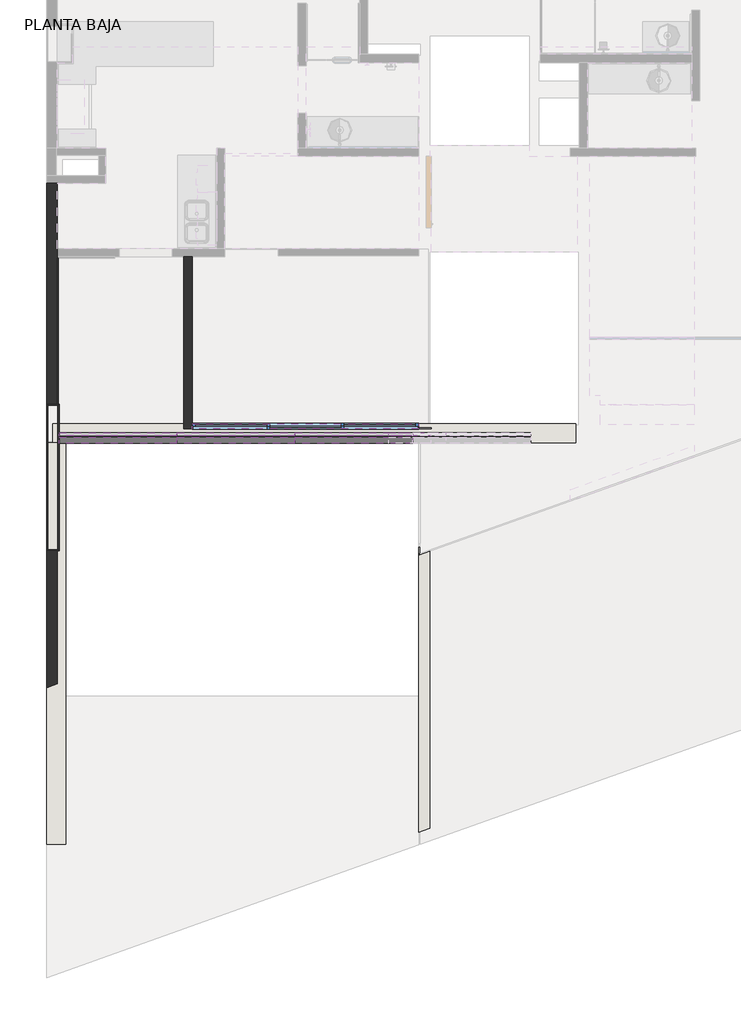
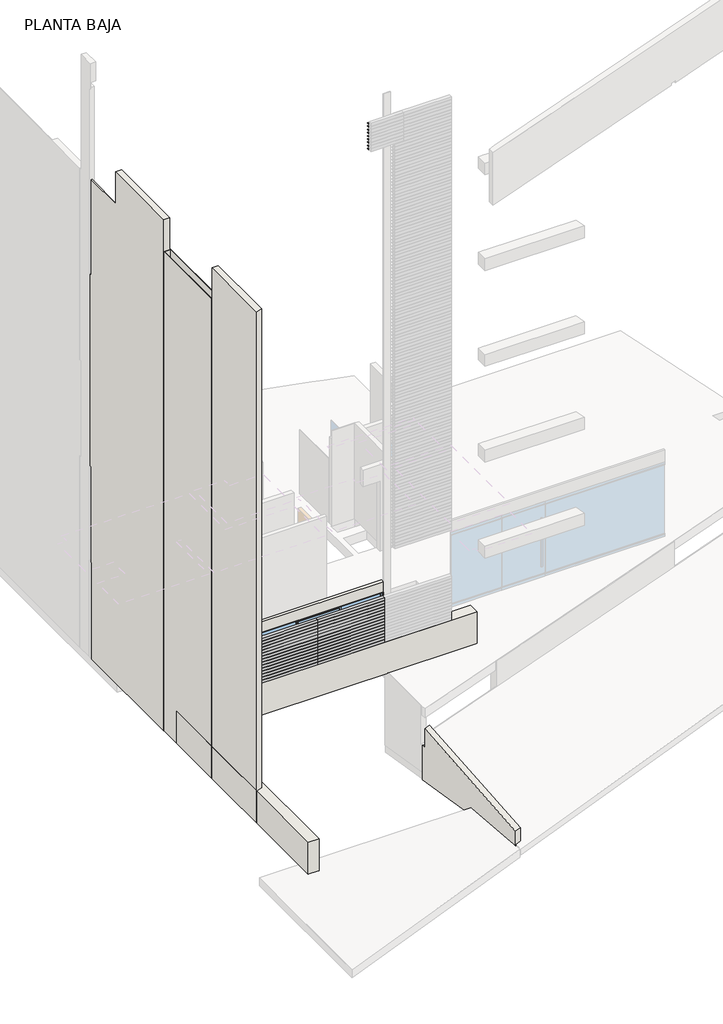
# One storey, part 1 of 8: 51 members, 45 plates, 12 walls, 1 window.
"""IFC4 building model written with IfcOpenShell, lengths in millimetres."""

from ifc_helpers import new_model, si_unit, frame, origin, origin_with_axes, place, context, project, spatial, polyline, outline, extrude, faceted_brep, transform, mapped, element, save
from components import montante_rectangular_montante_rectangular_1_5x5_ea551b8a, montante_rectangular_montante_rectangular_1_5x5_bb02bb6d, plate_4e62c2e7, window_9cd2920f

model = new_model("IFC4")

# Units and contexts
model_context = context("Model", 3, world=origin())
ifc_project = project(units=[si_unit("LENGTHUNIT", "METRE", prefix="MILLI")], contexts=[model_context])

# Site, building, storey
site = spatial("IfcSite", under=ifc_project)
building = spatial("IfcBuilding", under=site)
storey = spatial("IfcBuildingStorey", under=building, Name="PLANTA BAJA", Elevation=0.0)

# Members
placement = place(None, origin())
montante_rectangular_montante_rectangular_1_5x5_shape = montante_rectangular_montante_rectangular_1_5x5_ea551b8a(model_context)
element("IfcMember", 1, ObjectType="Montante rectangular : Montante rectangular - 1.5x5", at=placement, inside=storey, context=model_context, shape_type="MappedRepresentation", body=[
    mapped(montante_rectangular_montante_rectangular_1_5x5_shape, transform((39724.5059119, 25044.0111729, 16507.8), x_axis=(0.0, 0.0, 1.0), y_axis=(0.0, 1.0, 0.0), z_axis=(-1.0, 0.0, 0.0))),
])
element("IfcMember", 2, ObjectType="Montante rectangular : Montante rectangular - 1.5x5", at=placement, inside=storey, context=model_context, shape_type="MappedRepresentation", body=[
    mapped(montante_rectangular_montante_rectangular_1_5x5_shape, transform((39724.5059119, 25044.0111729, 16607.7666667), x_axis=(0.0, 0.0, 1.0), y_axis=(0.0, 1.0, 0.0), z_axis=(-1.0, 0.0, 0.0))),
])
element("IfcMember", 3, ObjectType="Montante rectangular : Montante rectangular - 1.5x5", at=placement, inside=storey, context=model_context, shape_type="MappedRepresentation", body=[
    mapped(montante_rectangular_montante_rectangular_1_5x5_shape, transform((39724.5059119, 25044.0111729, 16707.7333333), x_axis=(0.0, 0.0, 1.0), y_axis=(0.0, 1.0, 0.0), z_axis=(-1.0, 0.0, 0.0))),
])
element("IfcMember", 4, ObjectType="Montante rectangular : Montante rectangular - 1.5x5", at=placement, inside=storey, context=model_context, shape_type="MappedRepresentation", body=[
    mapped(montante_rectangular_montante_rectangular_1_5x5_shape, transform((39724.5059119, 25044.0111729, 16807.7), x_axis=(0.0, 0.0, 1.0), y_axis=(0.0, 1.0, 0.0), z_axis=(-1.0, 0.0, 0.0))),
])
element("IfcMember", 5, ObjectType="Montante rectangular : Montante rectangular - 1.5x5", at=placement, inside=storey, context=model_context, shape_type="MappedRepresentation", body=[
    mapped(montante_rectangular_montante_rectangular_1_5x5_shape, transform((39724.5059119, 25044.0111729, 16907.6666667), x_axis=(0.0, 0.0, 1.0), y_axis=(0.0, 1.0, 0.0), z_axis=(-1.0, 0.0, 0.0))),
])
element("IfcMember", 6, ObjectType="Montante rectangular : Montante rectangular - 1.5x5", at=placement, inside=storey, context=model_context, shape_type="MappedRepresentation", body=[
    mapped(montante_rectangular_montante_rectangular_1_5x5_shape, transform((39724.5059119, 25044.0111729, 17007.6333333), x_axis=(0.0, 0.0, 1.0), y_axis=(0.0, 1.0, 0.0), z_axis=(-1.0, 0.0, 0.0))),
])
element("IfcMember", 7, ObjectType="Montante rectangular : Montante rectangular - 1.5x5", at=placement, inside=storey, context=model_context, shape_type="MappedRepresentation", body=[
    mapped(montante_rectangular_montante_rectangular_1_5x5_shape, transform((39724.5059119, 25044.0111729, 17107.6), x_axis=(0.0, 0.0, 1.0), y_axis=(0.0, 1.0, 0.0), z_axis=(-1.0, 0.0, 0.0))),
])
element("IfcMember", 8, ObjectType="Montante rectangular : Montante rectangular - 1.5x5", at=placement, inside=storey, context=model_context, shape_type="MappedRepresentation", body=[
    mapped(montante_rectangular_montante_rectangular_1_5x5_shape, transform((39724.5059119, 25044.0111729, 17207.5666667), x_axis=(0.0, 0.0, 1.0), y_axis=(0.0, 1.0, 0.0), z_axis=(-1.0, 0.0, 0.0))),
])
element("IfcMember", 9, ObjectType="Montante rectangular : Montante rectangular - 1.5x5", at=placement, inside=storey, context=model_context, shape_type="MappedRepresentation", body=[
    mapped(montante_rectangular_montante_rectangular_1_5x5_shape, transform((39724.5059119, 25044.0111729, 17307.5333333), x_axis=(0.0, 0.0, 1.0), y_axis=(0.0, 1.0, 0.0), z_axis=(-1.0, 0.0, 0.0))),
])
montante_rectangular_montante_rectangular_1_5x5_2_shape = montante_rectangular_montante_rectangular_1_5x5_bb02bb6d(model_context)
element("IfcMember", 10, ObjectType="Montante rectangular : Montante rectangular - 1.5x5", at=placement, inside=storey, context=model_context, shape_type="MappedRepresentation", body=[
    mapped(montante_rectangular_montante_rectangular_1_5x5_2_shape, transform((38146.2520503, 25044.0111729, 1086.8333333), x_axis=(0.0, 0.0, 1.0), y_axis=(0.0, 1.0, 0.0), z_axis=(-1.0, 0.0, 0.0))),
])
element("IfcMember", 11, ObjectType="Montante rectangular : Montante rectangular - 1.5x5", at=placement, inside=storey, context=model_context, shape_type="MappedRepresentation", body=[
    mapped(montante_rectangular_montante_rectangular_1_5x5_2_shape, transform((36160.0555189, 25044.0111729, 1086.8333333), x_axis=(0.0, 0.0, 1.0), y_axis=(0.0, 1.0, 0.0), z_axis=(-1.0, 0.0, 0.0))),
])
element("IfcMember", 12, ObjectType="Montante rectangular : Montante rectangular - 1.5x5", at=placement, inside=storey, context=model_context, shape_type="MappedRepresentation", body=[
    mapped(montante_rectangular_montante_rectangular_1_5x5_2_shape, transform((38146.2520503, 25044.0111729, 1181.1666667), x_axis=(0.0, 0.0, 1.0), y_axis=(0.0, 1.0, 0.0), z_axis=(-1.0, 0.0, 0.0))),
])
element("IfcMember", 13, ObjectType="Montante rectangular : Montante rectangular - 1.5x5", at=placement, inside=storey, context=model_context, shape_type="MappedRepresentation", body=[
    mapped(montante_rectangular_montante_rectangular_1_5x5_2_shape, transform((36160.0555189, 25044.0111729, 1181.1666667), x_axis=(0.0, 0.0, 1.0), y_axis=(0.0, 1.0, 0.0), z_axis=(-1.0, 0.0, 0.0))),
])
element("IfcMember", 14, ObjectType="Montante rectangular : Montante rectangular - 1.5x5", at=placement, inside=storey, context=model_context, shape_type="MappedRepresentation", body=[
    mapped(montante_rectangular_montante_rectangular_1_5x5_2_shape, transform((38146.2520503, 25044.0111729, 1275.5), x_axis=(0.0, 0.0, 1.0), y_axis=(0.0, 1.0, 0.0), z_axis=(-1.0, 0.0, 0.0))),
])
element("IfcMember", 15, ObjectType="Montante rectangular : Montante rectangular - 1.5x5", at=placement, inside=storey, context=model_context, shape_type="MappedRepresentation", body=[
    mapped(montante_rectangular_montante_rectangular_1_5x5_2_shape, transform((36160.0555189, 25044.0111729, 1275.5), x_axis=(0.0, 0.0, 1.0), y_axis=(0.0, 1.0, 0.0), z_axis=(-1.0, 0.0, 0.0))),
])
element("IfcMember", 16, ObjectType="Montante rectangular : Montante rectangular - 1.5x5", at=placement, inside=storey, context=model_context, shape_type="MappedRepresentation", body=[
    mapped(montante_rectangular_montante_rectangular_1_5x5_2_shape, transform((38146.2520503, 25044.0111729, 1369.8333333), x_axis=(0.0, 0.0, 1.0), y_axis=(0.0, 1.0, 0.0), z_axis=(-1.0, 0.0, 0.0))),
])
element("IfcMember", 17, ObjectType="Montante rectangular : Montante rectangular - 1.5x5", at=placement, inside=storey, context=model_context, shape_type="MappedRepresentation", body=[
    mapped(montante_rectangular_montante_rectangular_1_5x5_2_shape, transform((36160.0555189, 25044.0111729, 1369.8333333), x_axis=(0.0, 0.0, 1.0), y_axis=(0.0, 1.0, 0.0), z_axis=(-1.0, 0.0, 0.0))),
])
element("IfcMember", 18, ObjectType="Montante rectangular : Montante rectangular - 1.5x5", at=placement, inside=storey, context=model_context, shape_type="MappedRepresentation", body=[
    mapped(montante_rectangular_montante_rectangular_1_5x5_2_shape, transform((38146.2520503, 25044.0111729, 1464.1666667), x_axis=(0.0, 0.0, 1.0), y_axis=(0.0, 1.0, 0.0), z_axis=(-1.0, 0.0, 0.0))),
])
element("IfcMember", 19, ObjectType="Montante rectangular : Montante rectangular - 1.5x5", at=placement, inside=storey, context=model_context, shape_type="MappedRepresentation", body=[
    mapped(montante_rectangular_montante_rectangular_1_5x5_2_shape, transform((36160.0555189, 25044.0111729, 1464.1666667), x_axis=(0.0, 0.0, 1.0), y_axis=(0.0, 1.0, 0.0), z_axis=(-1.0, 0.0, 0.0))),
])
element("IfcMember", 20, ObjectType="Montante rectangular : Montante rectangular - 1.5x5", at=placement, inside=storey, context=model_context, shape_type="MappedRepresentation", body=[
    mapped(montante_rectangular_montante_rectangular_1_5x5_2_shape, transform((38146.2520503, 25044.0111729, 1558.5), x_axis=(0.0, 0.0, 1.0), y_axis=(0.0, 1.0, 0.0), z_axis=(-1.0, 0.0, 0.0))),
])
element("IfcMember", 21, ObjectType="Montante rectangular : Montante rectangular - 1.5x5", at=placement, inside=storey, context=model_context, shape_type="MappedRepresentation", body=[
    mapped(montante_rectangular_montante_rectangular_1_5x5_2_shape, transform((36160.0555189, 25044.0111729, 1558.5), x_axis=(0.0, 0.0, 1.0), y_axis=(0.0, 1.0, 0.0), z_axis=(-1.0, 0.0, 0.0))),
])
element("IfcMember", 22, ObjectType="Montante rectangular : Montante rectangular - 1.5x5", at=placement, inside=storey, context=model_context, shape_type="MappedRepresentation", body=[
    mapped(montante_rectangular_montante_rectangular_1_5x5_2_shape, transform((38146.2520503, 25044.0111729, 1652.8333333), x_axis=(0.0, 0.0, 1.0), y_axis=(0.0, 1.0, 0.0), z_axis=(-1.0, 0.0, 0.0))),
])
element("IfcMember", 23, ObjectType="Montante rectangular : Montante rectangular - 1.5x5", at=placement, inside=storey, context=model_context, shape_type="MappedRepresentation", body=[
    mapped(montante_rectangular_montante_rectangular_1_5x5_2_shape, transform((36160.0555189, 25044.0111729, 1652.8333333), x_axis=(0.0, 0.0, 1.0), y_axis=(0.0, 1.0, 0.0), z_axis=(-1.0, 0.0, 0.0))),
])
element("IfcMember", 24, ObjectType="Montante rectangular : Montante rectangular - 1.5x5", at=placement, inside=storey, context=model_context, shape_type="MappedRepresentation", body=[
    mapped(montante_rectangular_montante_rectangular_1_5x5_2_shape, transform((38146.2520503, 25044.0111729, 1747.1666667), x_axis=(0.0, 0.0, 1.0), y_axis=(0.0, 1.0, 0.0), z_axis=(-1.0, 0.0, 0.0))),
])
element("IfcMember", 25, ObjectType="Montante rectangular : Montante rectangular - 1.5x5", at=placement, inside=storey, context=model_context, shape_type="MappedRepresentation", body=[
    mapped(montante_rectangular_montante_rectangular_1_5x5_2_shape, transform((36160.0555189, 25044.0111729, 1747.1666667), x_axis=(0.0, 0.0, 1.0), y_axis=(0.0, 1.0, 0.0), z_axis=(-1.0, 0.0, 0.0))),
])
element("IfcMember", 26, ObjectType="Montante rectangular : Montante rectangular - 1.5x5", at=placement, inside=storey, context=model_context, shape_type="MappedRepresentation", body=[
    mapped(montante_rectangular_montante_rectangular_1_5x5_2_shape, transform((38146.2520503, 25044.0111729, 1841.5), x_axis=(0.0, 0.0, 1.0), y_axis=(0.0, 1.0, 0.0), z_axis=(-1.0, 0.0, 0.0))),
])
element("IfcMember", 27, ObjectType="Montante rectangular : Montante rectangular - 1.5x5", at=placement, inside=storey, context=model_context, shape_type="MappedRepresentation", body=[
    mapped(montante_rectangular_montante_rectangular_1_5x5_2_shape, transform((36160.0555189, 25044.0111729, 1841.5), x_axis=(0.0, 0.0, 1.0), y_axis=(0.0, 1.0, 0.0), z_axis=(-1.0, 0.0, 0.0))),
])
element("IfcMember", 28, ObjectType="Montante rectangular : Montante rectangular - 1.5x5", at=placement, inside=storey, context=model_context, shape_type="MappedRepresentation", body=[
    mapped(montante_rectangular_montante_rectangular_1_5x5_2_shape, transform((38146.2520503, 25044.0111729, 1935.8333333), x_axis=(0.0, 0.0, 1.0), y_axis=(0.0, 1.0, 0.0), z_axis=(-1.0, 0.0, 0.0))),
])
element("IfcMember", 29, ObjectType="Montante rectangular : Montante rectangular - 1.5x5", at=placement, inside=storey, context=model_context, shape_type="MappedRepresentation", body=[
    mapped(montante_rectangular_montante_rectangular_1_5x5_2_shape, transform((36160.0555189, 25044.0111729, 1935.8333333), x_axis=(0.0, 0.0, 1.0), y_axis=(0.0, 1.0, 0.0), z_axis=(-1.0, 0.0, 0.0))),
])
element("IfcMember", 30, ObjectType="Montante rectangular : Montante rectangular - 1.5x5", at=placement, inside=storey, context=model_context, shape_type="MappedRepresentation", body=[
    mapped(montante_rectangular_montante_rectangular_1_5x5_2_shape, transform((38146.2520503, 25044.0111729, 2030.1666667), x_axis=(0.0, 0.0, 1.0), y_axis=(0.0, 1.0, 0.0), z_axis=(-1.0, 0.0, 0.0))),
])
element("IfcMember", 31, ObjectType="Montante rectangular : Montante rectangular - 1.5x5", at=placement, inside=storey, context=model_context, shape_type="MappedRepresentation", body=[
    mapped(montante_rectangular_montante_rectangular_1_5x5_2_shape, transform((36160.0555189, 25044.0111729, 2030.1666667), x_axis=(0.0, 0.0, 1.0), y_axis=(0.0, 1.0, 0.0), z_axis=(-1.0, 0.0, 0.0))),
])
element("IfcMember", 32, ObjectType="Montante rectangular : Montante rectangular - 1.5x5", at=placement, inside=storey, context=model_context, shape_type="MappedRepresentation", body=[
    mapped(montante_rectangular_montante_rectangular_1_5x5_2_shape, transform((38146.2520503, 25044.0111729, 2124.5), x_axis=(0.0, 0.0, 1.0), y_axis=(0.0, 1.0, 0.0), z_axis=(-1.0, 0.0, 0.0))),
])
element("IfcMember", 33, ObjectType="Montante rectangular : Montante rectangular - 1.5x5", at=placement, inside=storey, context=model_context, shape_type="MappedRepresentation", body=[
    mapped(montante_rectangular_montante_rectangular_1_5x5_2_shape, transform((36160.0555189, 25044.0111729, 2124.5), x_axis=(0.0, 0.0, 1.0), y_axis=(0.0, 1.0, 0.0), z_axis=(-1.0, 0.0, 0.0))),
])
element("IfcMember", 34, ObjectType="Montante rectangular : Montante rectangular - 1.5x5", at=placement, inside=storey, context=model_context, shape_type="MappedRepresentation", body=[
    mapped(montante_rectangular_montante_rectangular_1_5x5_2_shape, transform((38146.2520503, 25044.0111729, 2218.8333333), x_axis=(0.0, 0.0, 1.0), y_axis=(0.0, 1.0, 0.0), z_axis=(-1.0, 0.0, 0.0))),
])
element("IfcMember", 35, ObjectType="Montante rectangular : Montante rectangular - 1.5x5", at=placement, inside=storey, context=model_context, shape_type="MappedRepresentation", body=[
    mapped(montante_rectangular_montante_rectangular_1_5x5_2_shape, transform((36160.0555189, 25044.0111729, 2218.8333333), x_axis=(0.0, 0.0, 1.0), y_axis=(0.0, 1.0, 0.0), z_axis=(-1.0, 0.0, 0.0))),
])
element("IfcMember", 36, ObjectType="Montante rectangular : Montante rectangular - 1.5x5", at=placement, inside=storey, context=model_context, shape_type="MappedRepresentation", body=[
    mapped(montante_rectangular_montante_rectangular_1_5x5_2_shape, transform((38146.2520503, 25044.0111729, 2313.1666667), x_axis=(0.0, 0.0, 1.0), y_axis=(0.0, 1.0, 0.0), z_axis=(-1.0, 0.0, 0.0))),
])
element("IfcMember", 37, ObjectType="Montante rectangular : Montante rectangular - 1.5x5", at=placement, inside=storey, context=model_context, shape_type="MappedRepresentation", body=[
    mapped(montante_rectangular_montante_rectangular_1_5x5_2_shape, transform((36160.0555189, 25044.0111729, 2313.1666667), x_axis=(0.0, 0.0, 1.0), y_axis=(0.0, 1.0, 0.0), z_axis=(-1.0, 0.0, 0.0))),
])
element("IfcMember", 38, ObjectType="Montante rectangular : Montante rectangular - 1.5x5", at=placement, inside=storey, context=model_context, shape_type="MappedRepresentation", body=[
    mapped(montante_rectangular_montante_rectangular_1_5x5_2_shape, transform((34173.8589874, 25044.0111729, 1086.8333333), x_axis=(0.0, 0.0, 1.0), y_axis=(0.0, 1.0, 0.0), z_axis=(-1.0, 0.0, 0.0))),
])
element("IfcMember", 39, ObjectType="Montante rectangular : Montante rectangular - 1.5x5", at=placement, inside=storey, context=model_context, shape_type="MappedRepresentation", body=[
    mapped(montante_rectangular_montante_rectangular_1_5x5_2_shape, transform((34173.8589874, 25044.0111729, 1181.1666667), x_axis=(0.0, 0.0, 1.0), y_axis=(0.0, 1.0, 0.0), z_axis=(-1.0, 0.0, 0.0))),
])
element("IfcMember", 40, ObjectType="Montante rectangular : Montante rectangular - 1.5x5", at=placement, inside=storey, context=model_context, shape_type="MappedRepresentation", body=[
    mapped(montante_rectangular_montante_rectangular_1_5x5_2_shape, transform((34173.8589874, 25044.0111729, 1275.5), x_axis=(0.0, 0.0, 1.0), y_axis=(0.0, 1.0, 0.0), z_axis=(-1.0, 0.0, 0.0))),
])
element("IfcMember", 41, ObjectType="Montante rectangular : Montante rectangular - 1.5x5", at=placement, inside=storey, context=model_context, shape_type="MappedRepresentation", body=[
    mapped(montante_rectangular_montante_rectangular_1_5x5_2_shape, transform((34173.8589874, 25044.0111729, 1369.8333333), x_axis=(0.0, 0.0, 1.0), y_axis=(0.0, 1.0, 0.0), z_axis=(-1.0, 0.0, 0.0))),
])
element("IfcMember", 42, ObjectType="Montante rectangular : Montante rectangular - 1.5x5", at=placement, inside=storey, context=model_context, shape_type="MappedRepresentation", body=[
    mapped(montante_rectangular_montante_rectangular_1_5x5_2_shape, transform((34173.8589874, 25044.0111729, 1464.1666667), x_axis=(0.0, 0.0, 1.0), y_axis=(0.0, 1.0, 0.0), z_axis=(-1.0, 0.0, 0.0))),
])
element("IfcMember", 43, ObjectType="Montante rectangular : Montante rectangular - 1.5x5", at=placement, inside=storey, context=model_context, shape_type="MappedRepresentation", body=[
    mapped(montante_rectangular_montante_rectangular_1_5x5_2_shape, transform((34173.8589874, 25044.0111729, 1558.5), x_axis=(0.0, 0.0, 1.0), y_axis=(0.0, 1.0, 0.0), z_axis=(-1.0, 0.0, 0.0))),
])
element("IfcMember", 44, ObjectType="Montante rectangular : Montante rectangular - 1.5x5", at=placement, inside=storey, context=model_context, shape_type="MappedRepresentation", body=[
    mapped(montante_rectangular_montante_rectangular_1_5x5_2_shape, transform((34173.8589874, 25044.0111729, 1652.8333333), x_axis=(0.0, 0.0, 1.0), y_axis=(0.0, 1.0, 0.0), z_axis=(-1.0, 0.0, 0.0))),
])
element("IfcMember", 45, ObjectType="Montante rectangular : Montante rectangular - 1.5x5", at=placement, inside=storey, context=model_context, shape_type="MappedRepresentation", body=[
    mapped(montante_rectangular_montante_rectangular_1_5x5_2_shape, transform((34173.8589874, 25044.0111729, 1747.1666667), x_axis=(0.0, 0.0, 1.0), y_axis=(0.0, 1.0, 0.0), z_axis=(-1.0, 0.0, 0.0))),
])
element("IfcMember", 46, ObjectType="Montante rectangular : Montante rectangular - 1.5x5", at=placement, inside=storey, context=model_context, shape_type="MappedRepresentation", body=[
    mapped(montante_rectangular_montante_rectangular_1_5x5_2_shape, transform((34173.8589874, 25044.0111729, 1841.5), x_axis=(0.0, 0.0, 1.0), y_axis=(0.0, 1.0, 0.0), z_axis=(-1.0, 0.0, 0.0))),
])
element("IfcMember", 47, ObjectType="Montante rectangular : Montante rectangular - 1.5x5", at=placement, inside=storey, context=model_context, shape_type="MappedRepresentation", body=[
    mapped(montante_rectangular_montante_rectangular_1_5x5_2_shape, transform((34173.8589874, 25044.0111729, 1935.8333333), x_axis=(0.0, 0.0, 1.0), y_axis=(0.0, 1.0, 0.0), z_axis=(-1.0, 0.0, 0.0))),
])
element("IfcMember", 48, ObjectType="Montante rectangular : Montante rectangular - 1.5x5", at=placement, inside=storey, context=model_context, shape_type="MappedRepresentation", body=[
    mapped(montante_rectangular_montante_rectangular_1_5x5_2_shape, transform((34173.8589874, 25044.0111729, 2030.1666667), x_axis=(0.0, 0.0, 1.0), y_axis=(0.0, 1.0, 0.0), z_axis=(-1.0, 0.0, 0.0))),
])
element("IfcMember", 49, ObjectType="Montante rectangular : Montante rectangular - 1.5x5", at=placement, inside=storey, context=model_context, shape_type="MappedRepresentation", body=[
    mapped(montante_rectangular_montante_rectangular_1_5x5_2_shape, transform((34173.8589874, 25044.0111729, 2124.5), x_axis=(0.0, 0.0, 1.0), y_axis=(0.0, 1.0, 0.0), z_axis=(-1.0, 0.0, 0.0))),
])
element("IfcMember", 50, ObjectType="Montante rectangular : Montante rectangular - 1.5x5", at=placement, inside=storey, context=model_context, shape_type="MappedRepresentation", body=[
    mapped(montante_rectangular_montante_rectangular_1_5x5_2_shape, transform((34173.8589874, 25044.0111729, 2218.8333333), x_axis=(0.0, 0.0, 1.0), y_axis=(0.0, 1.0, 0.0), z_axis=(-1.0, 0.0, 0.0))),
])
element("IfcMember", 51, ObjectType="Montante rectangular : Montante rectangular - 1.5x5", at=placement, inside=storey, context=model_context, shape_type="MappedRepresentation", body=[
    mapped(montante_rectangular_montante_rectangular_1_5x5_2_shape, transform((34173.8589874, 25044.0111729, 2313.1666667), x_axis=(0.0, 0.0, 1.0), y_axis=(0.0, 1.0, 0.0), z_axis=(-1.0, 0.0, 0.0))),
])

# Plates
plate_shape = plate_4e62c2e7(model_context)
element("IfcPlate", 52, ObjectType="Panel del sistema vacío : Vacío", at=placement, inside=storey, context=model_context, shape_type="MappedRepresentation", body=[
    mapped(plate_shape, transform((39139.3503161, 25044.0111729, 1000.0), x_axis=(-1.0, 0.0, 0.0), y_axis=(0.0, -1.0, 0.0), z_axis=(0.0, 0.0, 1.0))),
])
element("IfcPlate", 53, ObjectType="Panel del sistema vacío : Vacío", at=placement, inside=storey, context=model_context, shape_type="MappedRepresentation", body=[
    mapped(plate_shape, transform((37153.1537846, 25044.0111729, 1000.0), x_axis=(-1.0, 0.0, 0.0), y_axis=(0.0, -1.0, 0.0), z_axis=(0.0, 0.0, 1.0))),
])
element("IfcPlate", 54, ObjectType="Panel del sistema vacío : Vacío", at=placement, inside=storey, context=model_context, shape_type="MappedRepresentation", body=[
    mapped(plate_shape, transform((35166.9572532, 25044.0111729, 1000.0), x_axis=(-1.0, 0.0, 0.0), y_axis=(0.0, -1.0, 0.0), z_axis=(0.0, 0.0, 1.0))),
])
element("IfcPlate", 55, ObjectType="Panel del sistema vacío : Vacío", at=placement, inside=storey, context=model_context, shape_type="MappedRepresentation", body=[
    mapped(plate_shape, transform((39139.3503161, 25044.0111729, 1094.3333333), x_axis=(-1.0, 0.0, 0.0), y_axis=(0.0, -1.0, 0.0), z_axis=(0.0, 0.0, 1.0))),
])
element("IfcPlate", 56, ObjectType="Panel del sistema vacío : Vacío", at=placement, inside=storey, context=model_context, shape_type="MappedRepresentation", body=[
    mapped(plate_shape, transform((37153.1537846, 25044.0111729, 1094.3333333), x_axis=(-1.0, 0.0, 0.0), y_axis=(0.0, -1.0, 0.0), z_axis=(0.0, 0.0, 1.0))),
])
element("IfcPlate", 57, ObjectType="Panel del sistema vacío : Vacío", at=placement, inside=storey, context=model_context, shape_type="MappedRepresentation", body=[
    mapped(plate_shape, transform((35166.9572532, 25044.0111729, 1094.3333333), x_axis=(-1.0, 0.0, 0.0), y_axis=(0.0, -1.0, 0.0), z_axis=(0.0, 0.0, 1.0))),
])
element("IfcPlate", 58, ObjectType="Panel del sistema vacío : Vacío", at=placement, inside=storey, context=model_context, shape_type="MappedRepresentation", body=[
    mapped(plate_shape, transform((39139.3503161, 25044.0111729, 1188.6666667), x_axis=(-1.0, 0.0, 0.0), y_axis=(0.0, -1.0, 0.0), z_axis=(0.0, 0.0, 1.0))),
])
element("IfcPlate", 59, ObjectType="Panel del sistema vacío : Vacío", at=placement, inside=storey, context=model_context, shape_type="MappedRepresentation", body=[
    mapped(plate_shape, transform((37153.1537846, 25044.0111729, 1188.6666667), x_axis=(-1.0, 0.0, 0.0), y_axis=(0.0, -1.0, 0.0), z_axis=(0.0, 0.0, 1.0))),
])
element("IfcPlate", 60, ObjectType="Panel del sistema vacío : Vacío", at=placement, inside=storey, context=model_context, shape_type="MappedRepresentation", body=[
    mapped(plate_shape, transform((35166.9572532, 25044.0111729, 1188.6666667), x_axis=(-1.0, 0.0, 0.0), y_axis=(0.0, -1.0, 0.0), z_axis=(0.0, 0.0, 1.0))),
])
element("IfcPlate", 61, ObjectType="Panel del sistema vacío : Vacío", at=placement, inside=storey, context=model_context, shape_type="MappedRepresentation", body=[
    mapped(plate_shape, transform((39139.3503161, 25044.0111729, 1283.0), x_axis=(-1.0, 0.0, 0.0), y_axis=(0.0, -1.0, 0.0), z_axis=(0.0, 0.0, 1.0))),
])
element("IfcPlate", 62, ObjectType="Panel del sistema vacío : Vacío", at=placement, inside=storey, context=model_context, shape_type="MappedRepresentation", body=[
    mapped(plate_shape, transform((37153.1537846, 25044.0111729, 1283.0), x_axis=(-1.0, 0.0, 0.0), y_axis=(0.0, -1.0, 0.0), z_axis=(0.0, 0.0, 1.0))),
])
element("IfcPlate", 63, ObjectType="Panel del sistema vacío : Vacío", at=placement, inside=storey, context=model_context, shape_type="MappedRepresentation", body=[
    mapped(plate_shape, transform((35166.9572532, 25044.0111729, 1283.0), x_axis=(-1.0, 0.0, 0.0), y_axis=(0.0, -1.0, 0.0), z_axis=(0.0, 0.0, 1.0))),
])
element("IfcPlate", 64, ObjectType="Panel del sistema vacío : Vacío", at=placement, inside=storey, context=model_context, shape_type="MappedRepresentation", body=[
    mapped(plate_shape, transform((39139.3503161, 25044.0111729, 1377.3333333), x_axis=(-1.0, 0.0, 0.0), y_axis=(0.0, -1.0, 0.0), z_axis=(0.0, 0.0, 1.0))),
])
element("IfcPlate", 65, ObjectType="Panel del sistema vacío : Vacío", at=placement, inside=storey, context=model_context, shape_type="MappedRepresentation", body=[
    mapped(plate_shape, transform((37153.1537846, 25044.0111729, 1377.3333333), x_axis=(-1.0, 0.0, 0.0), y_axis=(0.0, -1.0, 0.0), z_axis=(0.0, 0.0, 1.0))),
])
element("IfcPlate", 66, ObjectType="Panel del sistema vacío : Vacío", at=placement, inside=storey, context=model_context, shape_type="MappedRepresentation", body=[
    mapped(plate_shape, transform((35166.9572532, 25044.0111729, 1377.3333333), x_axis=(-1.0, 0.0, 0.0), y_axis=(0.0, -1.0, 0.0), z_axis=(0.0, 0.0, 1.0))),
])
element("IfcPlate", 67, ObjectType="Panel del sistema vacío : Vacío", at=placement, inside=storey, context=model_context, shape_type="MappedRepresentation", body=[
    mapped(plate_shape, transform((39139.3503161, 25044.0111729, 1471.6666667), x_axis=(-1.0, 0.0, 0.0), y_axis=(0.0, -1.0, 0.0), z_axis=(0.0, 0.0, 1.0))),
])
element("IfcPlate", 68, ObjectType="Panel del sistema vacío : Vacío", at=placement, inside=storey, context=model_context, shape_type="MappedRepresentation", body=[
    mapped(plate_shape, transform((37153.1537846, 25044.0111729, 1471.6666667), x_axis=(-1.0, 0.0, 0.0), y_axis=(0.0, -1.0, 0.0), z_axis=(0.0, 0.0, 1.0))),
])
element("IfcPlate", 69, ObjectType="Panel del sistema vacío : Vacío", at=placement, inside=storey, context=model_context, shape_type="MappedRepresentation", body=[
    mapped(plate_shape, transform((35166.9572532, 25044.0111729, 1471.6666667), x_axis=(-1.0, 0.0, 0.0), y_axis=(0.0, -1.0, 0.0), z_axis=(0.0, 0.0, 1.0))),
])
element("IfcPlate", 70, ObjectType="Panel del sistema vacío : Vacío", at=placement, inside=storey, context=model_context, shape_type="MappedRepresentation", body=[
    mapped(plate_shape, transform((39139.3503161, 25044.0111729, 1566.0), x_axis=(-1.0, 0.0, 0.0), y_axis=(0.0, -1.0, 0.0), z_axis=(0.0, 0.0, 1.0))),
])
element("IfcPlate", 71, ObjectType="Panel del sistema vacío : Vacío", at=placement, inside=storey, context=model_context, shape_type="MappedRepresentation", body=[
    mapped(plate_shape, transform((37153.1537846, 25044.0111729, 1566.0), x_axis=(-1.0, 0.0, 0.0), y_axis=(0.0, -1.0, 0.0), z_axis=(0.0, 0.0, 1.0))),
])
element("IfcPlate", 72, ObjectType="Panel del sistema vacío : Vacío", at=placement, inside=storey, context=model_context, shape_type="MappedRepresentation", body=[
    mapped(plate_shape, transform((35166.9572532, 25044.0111729, 1566.0), x_axis=(-1.0, 0.0, 0.0), y_axis=(0.0, -1.0, 0.0), z_axis=(0.0, 0.0, 1.0))),
])
element("IfcPlate", 73, ObjectType="Panel del sistema vacío : Vacío", at=placement, inside=storey, context=model_context, shape_type="MappedRepresentation", body=[
    mapped(plate_shape, transform((39139.3503161, 25044.0111729, 1660.3333333), x_axis=(-1.0, 0.0, 0.0), y_axis=(0.0, -1.0, 0.0), z_axis=(0.0, 0.0, 1.0))),
])
element("IfcPlate", 74, ObjectType="Panel del sistema vacío : Vacío", at=placement, inside=storey, context=model_context, shape_type="MappedRepresentation", body=[
    mapped(plate_shape, transform((37153.1537846, 25044.0111729, 1660.3333333), x_axis=(-1.0, 0.0, 0.0), y_axis=(0.0, -1.0, 0.0), z_axis=(0.0, 0.0, 1.0))),
])
element("IfcPlate", 75, ObjectType="Panel del sistema vacío : Vacío", at=placement, inside=storey, context=model_context, shape_type="MappedRepresentation", body=[
    mapped(plate_shape, transform((35166.9572532, 25044.0111729, 1660.3333333), x_axis=(-1.0, 0.0, 0.0), y_axis=(0.0, -1.0, 0.0), z_axis=(0.0, 0.0, 1.0))),
])
element("IfcPlate", 76, ObjectType="Panel del sistema vacío : Vacío", at=placement, inside=storey, context=model_context, shape_type="MappedRepresentation", body=[
    mapped(plate_shape, transform((39139.3503161, 25044.0111729, 1754.6666667), x_axis=(-1.0, 0.0, 0.0), y_axis=(0.0, -1.0, 0.0), z_axis=(0.0, 0.0, 1.0))),
])
element("IfcPlate", 77, ObjectType="Panel del sistema vacío : Vacío", at=placement, inside=storey, context=model_context, shape_type="MappedRepresentation", body=[
    mapped(plate_shape, transform((37153.1537846, 25044.0111729, 1754.6666667), x_axis=(-1.0, 0.0, 0.0), y_axis=(0.0, -1.0, 0.0), z_axis=(0.0, 0.0, 1.0))),
])
element("IfcPlate", 78, ObjectType="Panel del sistema vacío : Vacío", at=placement, inside=storey, context=model_context, shape_type="MappedRepresentation", body=[
    mapped(plate_shape, transform((35166.9572532, 25044.0111729, 1754.6666667), x_axis=(-1.0, 0.0, 0.0), y_axis=(0.0, -1.0, 0.0), z_axis=(0.0, 0.0, 1.0))),
])
element("IfcPlate", 79, ObjectType="Panel del sistema vacío : Vacío", at=placement, inside=storey, context=model_context, shape_type="MappedRepresentation", body=[
    mapped(plate_shape, transform((39139.3503161, 25044.0111729, 1849.0), x_axis=(-1.0, 0.0, 0.0), y_axis=(0.0, -1.0, 0.0), z_axis=(0.0, 0.0, 1.0))),
])
element("IfcPlate", 80, ObjectType="Panel del sistema vacío : Vacío", at=placement, inside=storey, context=model_context, shape_type="MappedRepresentation", body=[
    mapped(plate_shape, transform((37153.1537846, 25044.0111729, 1849.0), x_axis=(-1.0, 0.0, 0.0), y_axis=(0.0, -1.0, 0.0), z_axis=(0.0, 0.0, 1.0))),
])
element("IfcPlate", 81, ObjectType="Panel del sistema vacío : Vacío", at=placement, inside=storey, context=model_context, shape_type="MappedRepresentation", body=[
    mapped(plate_shape, transform((35166.9572532, 25044.0111729, 1849.0), x_axis=(-1.0, 0.0, 0.0), y_axis=(0.0, -1.0, 0.0), z_axis=(0.0, 0.0, 1.0))),
])
element("IfcPlate", 82, ObjectType="Panel del sistema vacío : Vacío", at=placement, inside=storey, context=model_context, shape_type="MappedRepresentation", body=[
    mapped(plate_shape, transform((39139.3503161, 25044.0111729, 1943.3333333), x_axis=(-1.0, 0.0, 0.0), y_axis=(0.0, -1.0, 0.0), z_axis=(0.0, 0.0, 1.0))),
])
element("IfcPlate", 83, ObjectType="Panel del sistema vacío : Vacío", at=placement, inside=storey, context=model_context, shape_type="MappedRepresentation", body=[
    mapped(plate_shape, transform((37153.1537846, 25044.0111729, 1943.3333333), x_axis=(-1.0, 0.0, 0.0), y_axis=(0.0, -1.0, 0.0), z_axis=(0.0, 0.0, 1.0))),
])
element("IfcPlate", 84, ObjectType="Panel del sistema vacío : Vacío", at=placement, inside=storey, context=model_context, shape_type="MappedRepresentation", body=[
    mapped(plate_shape, transform((35166.9572532, 25044.0111729, 1943.3333333), x_axis=(-1.0, 0.0, 0.0), y_axis=(0.0, -1.0, 0.0), z_axis=(0.0, 0.0, 1.0))),
])
element("IfcPlate", 85, ObjectType="Panel del sistema vacío : Vacío", at=placement, inside=storey, context=model_context, shape_type="MappedRepresentation", body=[
    mapped(plate_shape, transform((39139.3503161, 25044.0111729, 2037.6666667), x_axis=(-1.0, 0.0, 0.0), y_axis=(0.0, -1.0, 0.0), z_axis=(0.0, 0.0, 1.0))),
])
element("IfcPlate", 86, ObjectType="Panel del sistema vacío : Vacío", at=placement, inside=storey, context=model_context, shape_type="MappedRepresentation", body=[
    mapped(plate_shape, transform((37153.1537846, 25044.0111729, 2037.6666667), x_axis=(-1.0, 0.0, 0.0), y_axis=(0.0, -1.0, 0.0), z_axis=(0.0, 0.0, 1.0))),
])
element("IfcPlate", 87, ObjectType="Panel del sistema vacío : Vacío", at=placement, inside=storey, context=model_context, shape_type="MappedRepresentation", body=[
    mapped(plate_shape, transform((35166.9572532, 25044.0111729, 2037.6666667), x_axis=(-1.0, 0.0, 0.0), y_axis=(0.0, -1.0, 0.0), z_axis=(0.0, 0.0, 1.0))),
])
element("IfcPlate", 88, ObjectType="Panel del sistema vacío : Vacío", at=placement, inside=storey, context=model_context, shape_type="MappedRepresentation", body=[
    mapped(plate_shape, transform((39139.3503161, 25044.0111729, 2132.0), x_axis=(-1.0, 0.0, 0.0), y_axis=(0.0, -1.0, 0.0), z_axis=(0.0, 0.0, 1.0))),
])
element("IfcPlate", 89, ObjectType="Panel del sistema vacío : Vacío", at=placement, inside=storey, context=model_context, shape_type="MappedRepresentation", body=[
    mapped(plate_shape, transform((37153.1537846, 25044.0111729, 2132.0), x_axis=(-1.0, 0.0, 0.0), y_axis=(0.0, -1.0, 0.0), z_axis=(0.0, 0.0, 1.0))),
])
element("IfcPlate", 90, ObjectType="Panel del sistema vacío : Vacío", at=placement, inside=storey, context=model_context, shape_type="MappedRepresentation", body=[
    mapped(plate_shape, transform((35166.9572532, 25044.0111729, 2132.0), x_axis=(-1.0, 0.0, 0.0), y_axis=(0.0, -1.0, 0.0), z_axis=(0.0, 0.0, 1.0))),
])
element("IfcPlate", 91, ObjectType="Panel del sistema vacío : Vacío", at=placement, inside=storey, context=model_context, shape_type="MappedRepresentation", body=[
    mapped(plate_shape, transform((39139.3503161, 25044.0111729, 2226.3333333), x_axis=(-1.0, 0.0, 0.0), y_axis=(0.0, -1.0, 0.0), z_axis=(0.0, 0.0, 1.0))),
])
element("IfcPlate", 92, ObjectType="Panel del sistema vacío : Vacío", at=placement, inside=storey, context=model_context, shape_type="MappedRepresentation", body=[
    mapped(plate_shape, transform((37153.1537846, 25044.0111729, 2226.3333333), x_axis=(-1.0, 0.0, 0.0), y_axis=(0.0, -1.0, 0.0), z_axis=(0.0, 0.0, 1.0))),
])
element("IfcPlate", 93, ObjectType="Panel del sistema vacío : Vacío", at=placement, inside=storey, context=model_context, shape_type="MappedRepresentation", body=[
    mapped(plate_shape, transform((35166.9572532, 25044.0111729, 2226.3333333), x_axis=(-1.0, 0.0, 0.0), y_axis=(0.0, -1.0, 0.0), z_axis=(0.0, 0.0, 1.0))),
])
element("IfcPlate", 94, ObjectType="Panel del sistema vacío : Vacío", at=placement, inside=storey, context=model_context, shape_type="MappedRepresentation", body=[
    mapped(plate_shape, transform((39139.3503161, 25044.0111729, 2320.6666667), x_axis=(-1.0, 0.0, 0.0), y_axis=(0.0, -1.0, 0.0), z_axis=(0.0, 0.0, 1.0))),
])
element("IfcPlate", 95, ObjectType="Panel del sistema vacío : Vacío", at=placement, inside=storey, context=model_context, shape_type="MappedRepresentation", body=[
    mapped(plate_shape, transform((37153.1537846, 25044.0111729, 2320.6666667), x_axis=(-1.0, 0.0, 0.0), y_axis=(0.0, -1.0, 0.0), z_axis=(0.0, 0.0, 1.0))),
])
element("IfcPlate", 96, ObjectType="Panel del sistema vacío : Vacío", at=placement, inside=storey, context=model_context, shape_type="MappedRepresentation", body=[
    mapped(plate_shape, transform((35166.9572532, 25044.0111729, 2320.6666667), x_axis=(-1.0, 0.0, 0.0), y_axis=(0.0, -1.0, 0.0), z_axis=(0.0, 0.0, 1.0))),
])

# Walls
element("IfcWall", 97, ObjectType="Muro block 18cms_ext tezon", at=placement, inside=storey, context=model_context, shape_type="Brep", body=[
    faceted_brep([(34068.8589874, 25224.0112971, 1000.0), (36274.5300226, 25224.0112971, 1000.0), (36414.5300226, 25224.0112971, 1000.0), (40234.5059119, 25224.0112971, 1000.0), (40254.5059119, 25224.0112971, 1000.0), (40424.5059119, 25224.0112971, 1000.0), (40444.5059119, 25224.0112971, 1000.0), (42872.6275078, 25224.0112971, 1000.0), (42872.6275078, 25224.0112971, 0.0), (40444.5059119, 25224.0112971, 0.0), (40424.5059119, 25224.0112971, 0.0), (40394.5059119, 25224.0112971, 0.0), (40394.5059119, 25224.0112971, 180.0), (34068.8589874, 25224.0112971, 180.0), (34068.8589874, 24904.0112971, 0.0), (34283.8589874, 24904.0112971, 0.0), (42872.6275078, 24904.0112971, 0.0), (42872.6275078, 24904.0112971, 1000.0), (42119.5059119, 24904.0112971, 1000.0), (34283.8589874, 24904.0112971, 1000.0), (34068.8589874, 24904.0112971, 1000.0), (34068.8589874, 24924.0112971, 0.0), (40394.5059119, 24924.0112971, 0.0), (42872.6275078, 24924.0112971, 0.0), (34068.8589874, 24924.0112971, 180.0), (42872.6275078, 24924.0112971, 1000.0), (40394.5059119, 24924.0112971, 180.0)], [[[0, 1, 2, 3, 4, 5, 6, 7, 8, 9, 10, 11, 12, 13]], [[14, 15, 16, 17, 18, 19, 20]], [[16, 15, 14, 21, 22, 11, 10, 9, 8, 23]], [[14, 20, 0, 13, 24, 21]], [[7, 6, 5, 4, 3, 2, 1, 0, 20, 19, 18, 17, 25]], [[8, 7, 25, 17, 16, 23]], [[12, 26, 24, 13]], [[26, 22, 21, 24]], [[22, 26, 12, 11]]]),
])
element("IfcWall", 98, ObjectType="Muro block 18cms_ext tezon", at=placement, inside=storey, context=model_context, shape_type="Brep", body=[
    faceted_brep([(33963.8589874, 24904.0112971, 0.0), (33963.8589874, 18137.9058422, 0.0), (33963.8589874, 18137.9058422, 1000.0), (33963.8589874, 24904.0112971, 1000.0), (34283.8589874, 24904.0112971, 0.0), (34283.8589874, 24904.0112971, 1000.0), (34283.8589874, 18137.9058422, 1000.0), (34283.8589874, 18137.9058422, 0.0), (34068.8589874, 24904.0112971, 0.0), (34183.8589874, 18137.9058422, 0.0), (33983.8589874, 18137.9058422, 0.0), (34068.8589874, 24904.0112971, 1000.0)], [[[0, 1, 2, 3]], [[4, 5, 6, 7]], [[1, 0, 8, 4, 7, 9, 10]], [[2, 1, 10, 9, 7, 6]], [[3, 2, 6, 5, 11]], [[0, 3, 11, 5, 4, 8]]]),
])
element("IfcWall", 99, ObjectType="Muro solo enjarre -2cms", at=placement, inside=storey, context=model_context, shape_type="Brep", body=[
    faceted_brep([(33963.8589874, 25542.4819737, 0.0), (33963.8589874, 23090.9402233, 0.0), (33963.8589874, 23090.9402233, 15000.0), (33963.8589874, 25542.4819737, 15000.0), (33983.8589874, 25542.4819737, 0.0), (33983.8589874, 25542.4819737, 15000.0), (33983.8589874, 25532.4819737, 15000.0), (33983.8589874, 23100.9402233, 15000.0), (33983.8589874, 23090.9402233, 15000.0), (33983.8589874, 23090.9402233, 0.0), (33983.8589874, 23100.9402233, 0.0), (33983.8589874, 25532.4819737, 0.0)], [[[0, 1, 2, 3]], [[4, 5, 6, 7, 8, 9, 10, 11]], [[1, 0, 4, 11, 10, 9]], [[2, 1, 9, 8]], [[3, 2, 8, 7, 6, 5]], [[0, 3, 5, 4]]]),
])
element("IfcWall", 100, ObjectType="Muro solo enjarre -2cms", at=placement, inside=storey, context=model_context, shape_type="Brep", body=[
    faceted_brep([(33963.8589874, 23080.9402233, 0.0), (34143.8589874, 23080.9402233, 0.0), (34173.8589874, 23080.9402233, 0.0), (34173.8589874, 23080.9402233, 15000.0), (33963.8589874, 23080.9402233, 15000.0), (34173.8589874, 23100.9402233, 15000.0), (34173.8589874, 23100.9402233, 0.0), (34153.8589874, 23100.9402233, 0.0), (33983.8589874, 23100.9402233, 0.0), (33983.8589874, 23100.9402233, 15000.0), (34153.8589874, 23100.9402233, 15000.0), (33963.8589874, 23090.9402233, 0.0), (33983.8589874, 23090.9402233, 0.0), (33983.8589874, 23090.9402233, 15000.0), (33963.8589874, 23090.9402233, 15000.0)], [[[0, 1, 2, 3, 4]], [[5, 6, 7, 8, 9, 10]], [[2, 1, 0, 11, 12, 8, 7, 6]], [[4, 3, 5, 10, 9, 13, 14]], [[0, 4, 14, 11]], [[3, 2, 6, 5]], [[12, 13, 9, 8]], [[13, 12, 11, 14]]]),
])
element("IfcWall", 101, ObjectType="Muro solo enjarre -2cms", at=placement, inside=storey, context=model_context, shape_type="SweptSolid", body=[
    extrude(outline(polyline([(34173.8589874, 25532.4819737), (34173.8589874, 23100.9402233), (34153.8589874, 23100.9402233), (34153.8589874, 25532.4819737), (34173.8589874, 25532.4819737)])), origin_with_axes(), (0.0, 0.0, 1.0), 15000.0),
])
element("IfcWall", 102, ObjectType="Muro solo enjarre -2cms", at=placement, inside=storey, context=model_context, shape_type="Brep", body=[
    faceted_brep([(34173.8589874, 25552.4819737, 0.0), (34163.8589874, 25552.4819737, 0.0), (34143.8589874, 25552.4819737, 0.0), (33963.8589874, 25552.4819737, 0.0), (33963.8589874, 25552.4819737, 15000.0), (34173.8589874, 25552.4819737, 15000.0), (34173.8589874, 25532.4819737, 0.0), (34173.8589874, 25532.4819737, 15000.0), (34153.8589874, 25532.4819737, 15000.0), (33983.8589874, 25532.4819737, 15000.0), (33983.8589874, 25532.4819737, 0.0), (34153.8589874, 25532.4819737, 0.0), (33983.8589874, 25542.4819737, 0.0), (33963.8589874, 25542.4819737, 0.0), (33963.8589874, 25542.4819737, 15000.0), (33983.8589874, 25542.4819737, 15000.0)], [[[0, 1, 2, 3, 4, 5]], [[6, 7, 8, 9, 10, 11]], [[3, 2, 1, 0, 6, 11, 10, 12, 13]], [[5, 4, 14, 15, 9, 8, 7]], [[4, 3, 13, 14]], [[15, 12, 10, 9]], [[12, 15, 14, 13]], [[5, 7, 6, 0]]]),
])
element("IfcWall", 103, ObjectType="Cerámica baño", at=placement, inside=storey, context=model_context, shape_type="SweptSolid", body=[
    extrude(outline(polyline([(34143.8589874, 25552.4819737), (34143.8589874, 28012.0432167), (34163.8589874, 28012.0432167), (34163.8589874, 25552.4819737), (34143.8589874, 25552.4819737)])), origin_with_axes(), (0.0, 0.0, 1.0), 2000.0),
])
element("IfcWall", 104, ObjectType="muro ventana estudio", at=placement, inside=storey, context=model_context, shape_type="SweptSolid", body=[
    extrude(outline(polyline([(36414.5300226, 25224.0112971), (40234.5059119, 25224.0112971), (40234.5059119, 25134.0112971), (36414.5300226, 25134.0112971), (36414.5300226, 25224.0112971)])), frame((0.0, 0.0, 2400.0), z_axis=(0.0, 0.0, 1.0), x_axis=(1.0, 0.0, 0.0)), (0.0, 0.0, 1.0), 320.0),
])
element("IfcWall", 105, ObjectType="Muro block 14cms_int", at=placement, inside=storey, context=model_context, shape_type="Brep", body=[
    faceted_brep([(36414.5300226, 28032.0432167, 2720.0), (36414.5300226, 25224.0112971, 2720.0), (36414.5300226, 25134.0112971, 2720.0), (36414.5300226, 25134.0112971, 2400.0), (36414.5300226, 25134.0112971, 1000.0), (36414.5300226, 25224.0112971, 1000.0), (36414.5300226, 25224.0112971, 180.0), (36414.5300226, 28032.0432167, 180.0), (36274.5300226, 25134.0112971, 2720.0), (36274.5300226, 28032.0432167, 2720.0), (36274.5300226, 28032.0432167, 180.0), (36274.5300226, 25224.0112971, 180.0), (36274.5300226, 25224.0112971, 1000.0), (36274.5300226, 25134.0112971, 1000.0)], [[[0, 1, 2, 3, 4, 5, 6, 7]], [[8, 9, 10, 11, 12, 13]], [[2, 1, 0, 9, 8]], [[9, 0, 7, 10]], [[13, 12, 5, 4]], [[5, 12, 11, 6]], [[2, 8, 13, 4, 3]], [[7, 6, 11, 10]]]),
])
element("IfcWall", 106, ObjectType="Muro block 18cms_ext", at=placement, inside=storey, context=model_context, shape_type="Brep", body=[
    faceted_brep([(33963.8589874, 29274.010184, 0.0), (33963.8589874, 25552.4819737, 0.0), (33963.8589874, 25552.4819737, 15000.0), (33963.8589874, 25552.4819737, 16000.0), (33963.8589874, 28021.0432167, 16000.0), (33963.8589874, 28021.0432167, 15000.0), (33963.8589874, 29274.010184, 15000.0), (33963.8589874, 29274.010184, 12000.0), (33963.8589874, 29334.010184, 12000.0), (33963.8589874, 29334.010184, 6000.0), (33963.8589874, 29274.010184, 6000.0), (33963.8589874, 29274.010184, 3000.0), (34143.8589874, 28021.0432167, 16000.0), (34143.8589874, 25552.4819737, 16000.0), (34143.8589874, 25552.4819737, 15000.0), (34143.8589874, 28021.0432167, 15000.0), (34143.8589874, 29274.010184, 2720.0), (34143.8589874, 25552.4819737, 2720.0), (34143.8589874, 25552.4819737, 180.0), (34143.8589874, 28157.0432167, 180.0), (34143.8589874, 28157.0432167, 0.0), (34143.8589874, 28172.0432167, 0.0), (34143.8589874, 29274.010184, 0.0), (34143.8589874, 25552.4819737, 3000.0), (34143.8589874, 29274.010184, 3000.0), (34143.8589874, 29274.010184, 5720.0), (34143.8589874, 25552.4819737, 5720.0), (34143.8589874, 29274.010184, 12000.0), (34143.8589874, 29274.010184, 14720.0), (34143.8589874, 25552.4819737, 14720.0), (34143.8589874, 25552.4819737, 12000.0), (34143.8589874, 25552.4819737, 6000.0), (34143.8589874, 29274.010184, 6000.0), (34143.8589874, 29334.010184, 6000.0), (34143.8589874, 29334.010184, 8720.0), (34143.8589874, 25552.4819737, 8720.0), (34143.8589874, 25552.4819737, 9000.0), (34143.8589874, 29274.010184, 9000.0), (34143.8589874, 29334.010184, 9000.0), (34143.8589874, 29334.010184, 11720.0), (34143.8589874, 25552.4819737, 11720.0), (33983.8589874, 28157.0432167, 0.0), (33983.8589874, 25552.4819737, 0.0), (33983.8589874, 28021.0432167, 15000.0), (33983.8589874, 29274.010184, 15000.0), (33983.8589874, 29274.010184, 2720.0), (33983.8589874, 25552.4819737, 2720.0), (33983.8589874, 25552.4819737, 3000.0), (33983.8589874, 29274.010184, 3000.0), (34123.8589874, 29334.010184, 6000.0), (33983.8589874, 25552.4819737, 6000.0), (33983.8589874, 29274.010184, 6000.0), (33983.8589874, 29334.010184, 12000.0), (33983.8589874, 29334.010184, 11720.0), (34123.8589874, 29334.010184, 9000.0), (33983.8589874, 29334.010184, 9000.0), (33983.8589874, 29334.010184, 8720.0), (33983.8589874, 29274.010184, 12000.0), (33983.8589874, 29274.010184, 5720.0), (33983.8589874, 29274.010184, 14720.0), (33983.8589874, 25552.4819737, 180.0), (33983.8589874, 25552.4819737, 5720.0), (33983.8589874, 25552.4819737, 8720.0), (33983.8589874, 25552.4819737, 9000.0), (33983.8589874, 25552.4819737, 11720.0), (33983.8589874, 25552.4819737, 12000.0), (33983.8589874, 25552.4819737, 14720.0), (33983.8589874, 25552.4819737, 15000.0), (33983.8589874, 28157.0432167, 180.0)], [[[0, 1, 2, 3, 4, 5, 6, 7, 8, 9, 10, 11]], [[12, 13, 14, 15]], [[16, 17, 18, 19, 20, 21, 22]], [[23, 24, 25, 26]], [[27, 28, 29, 30]], [[31, 32, 33, 34, 35]], [[36, 37, 38, 39, 40]], [[1, 0, 22, 21, 20, 41, 42]], [[4, 3, 13, 12]], [[6, 5, 43, 44]], [[17, 16, 45, 46]], [[24, 23, 47, 48]], [[45, 48, 47, 46]], [[5, 4, 12, 15, 43]], [[10, 9, 49, 33, 32, 31, 50, 51]], [[9, 8, 52, 53, 39, 38, 54, 55, 56, 34, 33, 49]], [[8, 7, 57, 52]], [[22, 0, 11, 10, 51, 58, 25, 24, 48, 45, 16]], [[7, 6, 44, 59, 28, 27, 57]], [[3, 2, 1, 42, 60, 18, 17, 46, 47, 23, 26, 61, 50, 31, 35, 62, 63, 36, 40, 64, 65, 30, 29, 66, 67, 14, 13]], [[59, 66, 29, 28]], [[67, 43, 15, 14]], [[66, 59, 44, 43, 67]], [[58, 61, 26, 25]], [[61, 58, 51, 50]], [[56, 62, 35, 34]], [[63, 55, 54, 38, 37, 36]], [[62, 56, 55, 63]], [[60, 68, 19, 18]], [[41, 68, 60, 42]], [[68, 41, 20, 19]], [[53, 64, 40, 39]], [[65, 57, 27, 30]], [[64, 53, 52, 57, 65]]]),
])
element("IfcWall", 107, ObjectType="Muro block 18cms_ext", at=placement, inside=storey, context=model_context, shape_type="Brep", body=[
    faceted_brep([(40234.5059119, 23139.6166463, -2273.3022256), (40234.5059119, 18343.0981398, -1472.7842281), (40234.5059119, 18343.0981398, -1401.7640105), (40234.5059119, 18343.0981398, -982.5116743), (40234.5059119, 23012.0011099, -599.8453269), (40234.5059119, 23012.0011099, -1200.0), (40234.5059119, 23139.6166463, -1200.0), (40234.5059119, 23139.6166463, -2042.2082596), (40414.5059119, 23139.6166463, -2273.3022256), (40414.5059119, 23139.6166463, -2270.6641745), (40414.5059119, 23139.6166463, -1200.0), (40414.5059119, 23076.1447508, -1200.0), (40414.5059119, 23076.1447508, -594.5880721), (40414.5059119, 18407.2417807, -977.2544194), (40414.5059119, 18407.2417807, -1483.4895217)], [[[0, 1, 2, 3, 4, 5, 6, 7]], [[8, 9, 10, 11, 12, 13, 14]], [[5, 4, 12, 11]], [[1, 0, 8, 14]], [[4, 3, 13, 12]], [[0, 7, 6, 10, 9, 8]], [[5, 11, 10, 6]], [[3, 2, 1, 14, 13]]]),
])
element("IfcWall", 108, ObjectType="Muro block 18cms_ext", at=placement, inside=storey, context=model_context, shape_type="Brep", body=[
    faceted_brep([(34143.8589874, 20841.5773939, 0.0), (34143.8589874, 23080.9402233, 0.0), (34143.8589874, 23080.9402233, 3000.0), (34143.8589874, 23080.9402233, 5000.0), (34143.8589874, 23080.9402233, 15000.0), (34143.8589874, 23080.9402233, 16000.0), (34143.8589874, 21032.6648258, 16000.0), (34143.8589874, 20841.5773939, 16000.0), (34143.8589874, 20841.5773939, 2400.0), (33963.8589874, 20777.433753, 0.0), (33963.8589874, 20777.433753, 16000.0), (33963.8589874, 23080.9402233, 16000.0), (33963.8589874, 23080.9402233, 15000.0), (33963.8589874, 23080.9402233, 0.0)], [[[0, 1, 2, 3, 4, 5, 6, 7, 8]], [[9, 10, 11, 12, 13]], [[1, 0, 9, 13]], [[7, 6, 5, 11, 10]], [[0, 8, 7, 10, 9]], [[5, 4, 3, 2, 1, 13, 12, 11]]]),
])

# Window
window_shape = window_9cd2920f(model_context)
element("IfcWindow", 109, ObjectType="VENT_ALUM_CORR_3HOJAS_CORRE CENTRAL : V18-VENT_ALUM_CORR_3HOJAS_CORRE CENTRAL", at=placement, inside=storey, context=model_context, shape_type="MappedRepresentation", body=[
    mapped(window_shape, transform((38324.5059119, 25179.0112971, 200.0), x_axis=(1.0, 0.0, 0.0), y_axis=(0.0, 1.0, 0.0), z_axis=(0.0, 0.0, 1.0))),
])

save(model, "model.ifc")
